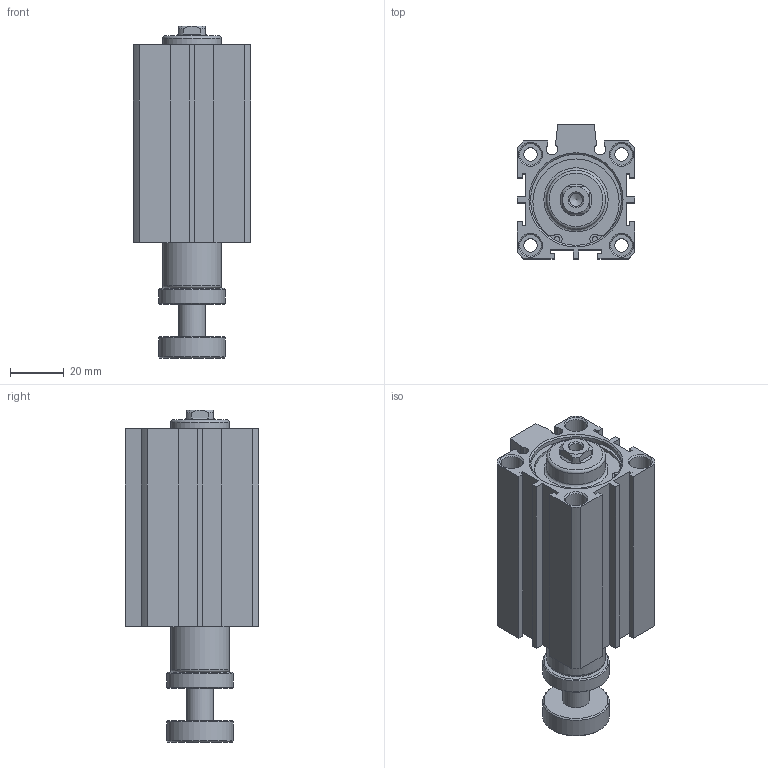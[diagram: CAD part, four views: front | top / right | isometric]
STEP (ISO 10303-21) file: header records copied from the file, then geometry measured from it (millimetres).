
FILE_DESCRIPTION((''),'2;1');
FILE_NAME('I:\3D電子目錄\氣缸\JDAR\JDAR\JDAR32\JDAR32x50.stp','2007-03-14T10:14:58',('662F206'),(''),'Autodesk Inventor 11','Autodesk Inventor 11','');
FILE_SCHEMA(('AUTOMOTIVE_DESIGN { 1 0 10303 214 1 1 1 1 }'));
Length unit declared in the file: millimetre
Products named in the file (3): JDAR32; R 形環 35
Assembly tree (3 placements, depth 2):
  JDAR32
    JDAR32
    R 形環 35  x2
Bounding box: 44 x 50 x 124.1 mm (x, y, z)
Volume: 138403.6 mm3; surface area: 35831.3 mm2
Topology: 3 solids, 3 shells, 170 faces, 399 edges, 259 vertices
Faces by surface type: plane 88, cylinder 51, cone 21, bspline 8, torus 2
Full cylindrical faces by diameter (mm): 1.9 x4, 2.2 x2, 5.1 x4, 8 x8, 10 x1, 22 x2, 25 x2, 34 x4, 36 x2
Entity records: 4435 total; most frequent: CARTESIAN_POINT 886, DIRECTION 740, ORIENTED_EDGE 622, EDGE_CURVE 311, AXIS2_PLACEMENT_3D 281, EDGE_LOOP 246, VERTEX_POINT 233, VECTOR 178
